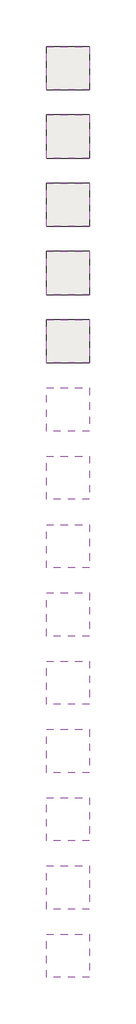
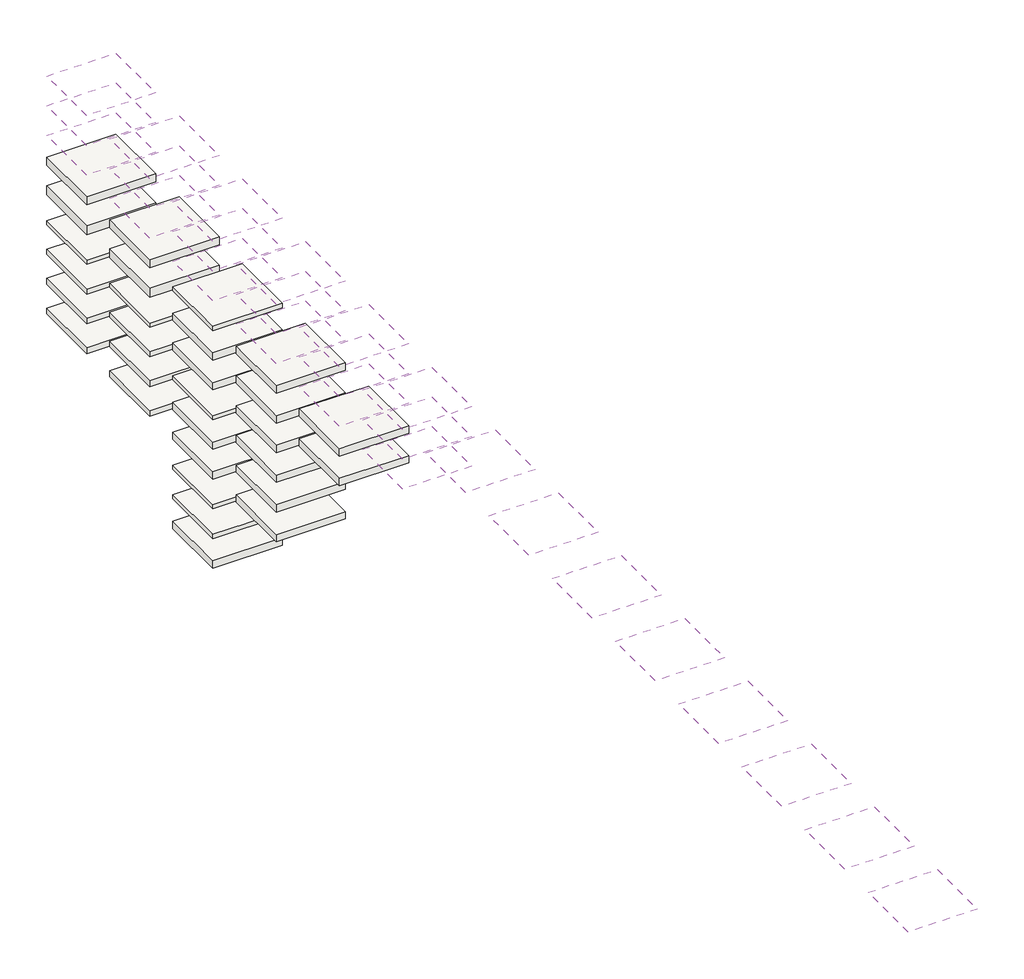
# One storey: 55 coverings.
"""IFC4 building model written with IfcOpenShell, lengths in millimetres."""

from ifc_helpers import new_model, si_unit, frame, origin, place, context, project, spatial, polyline, outline, extrude, element, save

model = new_model("IFC4")

# Units and contexts
model_context = context("Model", 3, world=origin())
ifc_project = project(units=[si_unit("LENGTHUNIT", "METRE", prefix="MILLI")], contexts=[model_context])

# Site, building, storey
site = spatial("IfcSite", under=ifc_project)
building = spatial("IfcBuilding", under=site)
storey = spatial("IfcBuildingStorey", under=building, Name="6_piekarāmie_griesti", Elevation=20000.0)

# Coverings
placement = place(None, origin())
element("IfcCovering", 1, ObjectType="RIGIPS - 4.05.71 (100)", at=placement, inside=storey, context=model_context, shape_type="SweptSolid", body=[
    extrude(outline(polyline([(16000.0, 10606.25), (16000.0, 9606.25), (15000.0, 9606.25), (15000.0, 10606.25), (16000.0, 10606.25)])), frame((0.0, 0.0, 22011.3687639), z_axis=(0.0, 0.0, 1.0), x_axis=(1.0, 0.0, 0.0)), (0.0, 0.0, 1.0), 100.0),
])
element("IfcCovering", 2, ObjectType="RIGIPS - 4.05.71 (113-1)", at=placement, inside=storey, context=model_context, shape_type="SweptSolid", body=[
    extrude(outline(polyline([(16000.0, 10606.25), (16000.0, 9606.25), (15000.0, 9606.25), (15000.0, 10606.25), (16000.0, 10606.25)])), frame((0.0, 0.0, 21557.8660542), z_axis=(0.0, 0.0, 1.0), x_axis=(1.0, 0.0, 0.0)), (0.0, 0.0, 1.0), 112.5),
])
element("IfcCovering", 3, ObjectType="RIGIPS - 4.05.71 (113-2)", at=placement, inside=storey, context=model_context, shape_type="SweptSolid", body=[
    extrude(outline(polyline([(16000.0, 10606.25), (16000.0, 9606.25), (15000.0, 9606.25), (15000.0, 10606.25), (16000.0, 10606.25)])), frame((0.0, 0.0, 21104.3633445), z_axis=(0.0, 0.0, 1.0), x_axis=(1.0, 0.0, 0.0)), (0.0, 0.0, 1.0), 112.5),
])
element("IfcCovering", 4, ObjectType="RIGIPS - 4.05.71 (125)", at=placement, inside=storey, context=model_context, shape_type="SweptSolid", body=[
    extrude(outline(polyline([(16000.0, 10606.25), (16000.0, 9606.25), (15000.0, 9606.25), (15000.0, 10606.25), (16000.0, 10606.25)])), frame((0.0, 0.0, 20650.8606349), z_axis=(0.0, 0.0, 1.0), x_axis=(1.0, 0.0, 0.0)), (0.0, 0.0, 1.0), 125.0),
])
element("IfcCovering", 5, ObjectType="RIGIPS - 4.05.71 (138)", at=placement, inside=storey, context=model_context, shape_type="SweptSolid", body=[
    extrude(outline(polyline([(16000.0, 10606.25), (16000.0, 9606.25), (15000.0, 9606.25), (15000.0, 10606.25), (16000.0, 10606.25)])), frame((0.0, 0.0, 20197.3579252), z_axis=(0.0, 0.0, 1.0), x_axis=(1.0, 0.0, 0.0)), (0.0, 0.0, 1.0), 137.5),
])
element("IfcCovering", 6, ObjectType="RIGIPS - 4.05.71 (63)", at=placement, inside=storey, context=model_context, shape_type="SweptSolid", body=[
    extrude(outline(polyline([(16000.0, 10606.25), (16000.0, 9606.25), (15000.0, 9606.25), (15000.0, 10606.25), (16000.0, 10606.25)])), frame((0.0, 0.0, 19743.8552155), z_axis=(0.0, 0.0, 1.0), x_axis=(1.0, 0.0, 0.0)), (0.0, 0.0, 1.0), 62.5),
])
element("IfcCovering", 7, ObjectType="RIGIPS - 4.05.71 (75)", at=placement, inside=storey, context=model_context, shape_type="SweptSolid", body=[
    extrude(outline(polyline([(16000.0, 10606.25), (16000.0, 9606.25), (15000.0, 9606.25), (15000.0, 10606.25), (16000.0, 10606.25)])), frame((0.0, 0.0, 19290.3525058), z_axis=(0.0, 0.0, 1.0), x_axis=(1.0, 0.0, 0.0)), (0.0, 0.0, 1.0), 75.0),
])
element("IfcCovering", 8, ObjectType="RIGIPS - 4.05.71 (88-1)", at=placement, inside=storey, context=model_context, shape_type="SweptSolid", body=[
    extrude(outline(polyline([(16000.0, 10606.25), (16000.0, 9606.25), (15000.0, 9606.25), (15000.0, 10606.25), (16000.0, 10606.25)])), frame((0.0, 0.0, 18836.8497962), z_axis=(0.0, 0.0, 1.0), x_axis=(1.0, 0.0, 0.0)), (0.0, 0.0, 1.0), 87.5),
])
element("IfcCovering", 9, ObjectType="RIGIPS - 4.05.71 (88-2)", at=placement, inside=storey, context=model_context, shape_type="SweptSolid", body=[
    extrude(outline(polyline([(16000.0, 10606.25), (16000.0, 9606.25), (15000.0, 9606.25), (15000.0, 10606.25), (16000.0, 10606.25)])), frame((0.0, 0.0, 18383.3470865), z_axis=(0.0, 0.0, 1.0), x_axis=(1.0, 0.0, 0.0)), (0.0, 0.0, 1.0), 87.5),
])
element("IfcCovering", 10, ObjectType="RIGIPS - 4.05.72 (100)", at=placement, inside=storey, context=model_context, shape_type="SweptSolid", body=[
    extrude(outline(polyline([(16000.0, 9026.25), (16000.0, 8026.25), (15000.0, 8026.25), (15000.0, 9026.25), (16000.0, 9026.25)])), frame((0.0, 0.0, 22011.3687639), z_axis=(0.0, 0.0, 1.0), x_axis=(1.0, 0.0, 0.0)), (0.0, 0.0, 1.0), 100.0),
])
element("IfcCovering", 11, ObjectType="RIGIPS - 4.05.72 (113-1)", at=placement, inside=storey, context=model_context, shape_type="SweptSolid", body=[
    extrude(outline(polyline([(16000.0, 9026.25), (16000.0, 8026.25), (15000.0, 8026.25), (15000.0, 9026.25), (16000.0, 9026.25)])), frame((0.0, 0.0, 21557.8660542), z_axis=(0.0, 0.0, 1.0), x_axis=(1.0, 0.0, 0.0)), (0.0, 0.0, 1.0), 112.5),
])
element("IfcCovering", 12, ObjectType="RIGIPS - 4.05.72 (113-2)", at=placement, inside=storey, context=model_context, shape_type="SweptSolid", body=[
    extrude(outline(polyline([(16000.0, 9026.25), (16000.0, 8026.25), (15000.0, 8026.25), (15000.0, 9026.25), (16000.0, 9026.25)])), frame((0.0, 0.0, 21104.3633445), z_axis=(0.0, 0.0, 1.0), x_axis=(1.0, 0.0, 0.0)), (0.0, 0.0, 1.0), 112.5),
])
element("IfcCovering", 13, ObjectType="RIGIPS - 4.05.72 (125)", at=placement, inside=storey, context=model_context, shape_type="SweptSolid", body=[
    extrude(outline(polyline([(16000.0, 9026.25), (16000.0, 8026.25), (15000.0, 8026.25), (15000.0, 9026.25), (16000.0, 9026.25)])), frame((0.0, 0.0, 20650.8606349), z_axis=(0.0, 0.0, 1.0), x_axis=(1.0, 0.0, 0.0)), (0.0, 0.0, 1.0), 125.0),
])
element("IfcCovering", 14, ObjectType="RIGIPS - 4.05.72 (138)", at=placement, inside=storey, context=model_context, shape_type="SweptSolid", body=[
    extrude(outline(polyline([(16000.0, 9026.25), (16000.0, 8026.25), (15000.0, 8026.25), (15000.0, 9026.25), (16000.0, 9026.25)])), frame((0.0, 0.0, 20197.3579252), z_axis=(0.0, 0.0, 1.0), x_axis=(1.0, 0.0, 0.0)), (0.0, 0.0, 1.0), 137.5),
])
element("IfcCovering", 15, ObjectType="RIGIPS - 4.05.72 (63)", at=placement, inside=storey, context=model_context, shape_type="SweptSolid", body=[
    extrude(outline(polyline([(16000.0, 9026.25), (16000.0, 8026.25), (15000.0, 8026.25), (15000.0, 9026.25), (16000.0, 9026.25)])), frame((0.0, 0.0, 19743.8552155), z_axis=(0.0, 0.0, 1.0), x_axis=(1.0, 0.0, 0.0)), (0.0, 0.0, 1.0), 62.5),
])
element("IfcCovering", 16, ObjectType="RIGIPS - 4.05.72 (75)", at=placement, inside=storey, context=model_context, shape_type="SweptSolid", body=[
    extrude(outline(polyline([(16000.0, 9026.25), (16000.0, 8026.25), (15000.0, 8026.25), (15000.0, 9026.25), (16000.0, 9026.25)])), frame((0.0, 0.0, 19290.3525058), z_axis=(0.0, 0.0, 1.0), x_axis=(1.0, 0.0, 0.0)), (0.0, 0.0, 1.0), 75.0),
])
element("IfcCovering", 17, ObjectType="RIGIPS - 4.05.72 (88-1)", at=placement, inside=storey, context=model_context, shape_type="SweptSolid", body=[
    extrude(outline(polyline([(16000.0, 9026.25), (16000.0, 8026.25), (15000.0, 8026.25), (15000.0, 9026.25), (16000.0, 9026.25)])), frame((0.0, 0.0, 18836.8497962), z_axis=(0.0, 0.0, 1.0), x_axis=(1.0, 0.0, 0.0)), (0.0, 0.0, 1.0), 87.5),
])
element("IfcCovering", 18, ObjectType="RIGIPS - 4.05.72 (88-2)", at=placement, inside=storey, context=model_context, shape_type="SweptSolid", body=[
    extrude(outline(polyline([(16000.0, 9026.25), (16000.0, 8026.25), (15000.0, 8026.25), (15000.0, 9026.25), (16000.0, 9026.25)])), frame((0.0, 0.0, 18383.3470865), z_axis=(0.0, 0.0, 1.0), x_axis=(1.0, 0.0, 0.0)), (0.0, 0.0, 1.0), 87.5),
])
element("IfcCovering", 19, ObjectType="RIGIPS - 4.07.20 - LINE 6", at=placement, inside=storey, context=model_context, shape_type="SweptSolid", body=[
    extrude(outline(polyline([(16000.0, 7446.25), (16000.0, 6446.25), (15000.0, 6446.25), (15000.0, 7446.25), (16000.0, 7446.25)])), frame((0.0, 0.0, 22011.3687639), z_axis=(0.0, 0.0, 1.0), x_axis=(1.0, 0.0, 0.0)), (0.0, 0.0, 1.0), 112.5),
])
element("IfcCovering", 20, ObjectType="RIGIPS - 4.07.20 - QUATTRO 40", at=placement, inside=storey, context=model_context, shape_type="SweptSolid", body=[
    extrude(outline(polyline([(16000.0, 7446.25), (16000.0, 6446.25), (15000.0, 6446.25), (15000.0, 7446.25), (16000.0, 7446.25)])), frame((0.0, 0.0, 21557.8660542), z_axis=(0.0, 0.0, 1.0), x_axis=(1.0, 0.0, 0.0)), (0.0, 0.0, 1.0), 62.5),
])
element("IfcCovering", 21, ObjectType="RIGIPS - 4.07.20 - QUATTRO 41-1", at=placement, inside=storey, context=model_context, shape_type="SweptSolid", body=[
    extrude(outline(polyline([(16000.0, 7446.25), (16000.0, 6446.25), (15000.0, 6446.25), (15000.0, 7446.25), (16000.0, 7446.25)])), frame((0.0, 0.0, 21104.3633445), z_axis=(0.0, 0.0, 1.0), x_axis=(1.0, 0.0, 0.0)), (0.0, 0.0, 1.0), 62.5),
])
element("IfcCovering", 22, ObjectType="RIGIPS - 4.07.20 - QUATTRO 41-2", at=placement, inside=storey, context=model_context, shape_type="SweptSolid", body=[
    extrude(outline(polyline([(16000.0, 7446.25), (16000.0, 6446.25), (15000.0, 6446.25), (15000.0, 7446.25), (16000.0, 7446.25)])), frame((0.0, 0.0, 20650.8606349), z_axis=(0.0, 0.0, 1.0), x_axis=(1.0, 0.0, 0.0)), (0.0, 0.0, 1.0), 62.5),
])
element("IfcCovering", 23, ObjectType="RIGIPS - 4.07.20 - QUATTRO 41", at=placement, inside=storey, context=model_context, shape_type="SweptSolid", body=[
    extrude(outline(polyline([(16000.0, 7446.25), (16000.0, 6446.25), (15000.0, 6446.25), (15000.0, 7446.25), (16000.0, 7446.25)])), frame((0.0, 0.0, 20197.3579252), z_axis=(0.0, 0.0, 1.0), x_axis=(1.0, 0.0, 0.0)), (0.0, 0.0, 1.0), 112.5),
])
element("IfcCovering", 24, ObjectType="RIGIPS - 4.07.20 - QUATTRO 42", at=placement, inside=storey, context=model_context, shape_type="SweptSolid", body=[
    extrude(outline(polyline([(16000.0, 7446.25), (16000.0, 6446.25), (15000.0, 6446.25), (15000.0, 7446.25), (16000.0, 7446.25)])), frame((0.0, 0.0, 19743.8552155), z_axis=(0.0, 0.0, 1.0), x_axis=(1.0, 0.0, 0.0)), (0.0, 0.0, 1.0), 112.5),
])
element("IfcCovering", 25, ObjectType="RIGIPS - 4.07.20 - QUATTRO 44", at=placement, inside=storey, context=model_context, shape_type="SweptSolid", body=[
    extrude(outline(polyline([(16000.0, 7446.25), (16000.0, 6446.25), (15000.0, 6446.25), (15000.0, 7446.25), (16000.0, 7446.25)])), frame((0.0, 0.0, 19290.3525058), z_axis=(0.0, 0.0, 1.0), x_axis=(1.0, 0.0, 0.0)), (0.0, 0.0, 1.0), 62.5),
])
element("IfcCovering", 26, ObjectType="RIGIPS - 4.07.20 - QUATTRO 46", at=placement, inside=storey, context=model_context, shape_type="SweptSolid", body=[
    extrude(outline(polyline([(16000.0, 7446.25), (16000.0, 6446.25), (15000.0, 6446.25), (15000.0, 7446.25), (16000.0, 7446.25)])), frame((0.0, 0.0, 18836.8497962), z_axis=(0.0, 0.0, 1.0), x_axis=(1.0, 0.0, 0.0)), (0.0, 0.0, 1.0), 112.5),
])
element("IfcCovering", 27, ObjectType="RIGIPS - 4.07.20 - QUATTRO 47", at=placement, inside=storey, context=model_context, shape_type="SweptSolid", body=[
    extrude(outline(polyline([(16000.0, 7446.25), (16000.0, 6446.25), (15000.0, 6446.25), (15000.0, 7446.25), (16000.0, 7446.25)])), frame((0.0, 0.0, 18383.3470865), z_axis=(0.0, 0.0, 1.0), x_axis=(1.0, 0.0, 0.0)), (0.0, 0.0, 1.0), 112.5),
])
element("IfcCovering", 28, ObjectType="RIGIPS - 4.07.20 - QUATTRO 71", at=placement, inside=storey, context=model_context, shape_type="SweptSolid", body=[
    extrude(outline(polyline([(16000.0, 7446.25), (16000.0, 6446.25), (15000.0, 6446.25), (15000.0, 7446.25), (16000.0, 7446.25)])), frame((0.0, 0.0, 17929.8443768), z_axis=(0.0, 0.0, 1.0), x_axis=(1.0, 0.0, 0.0)), (0.0, 0.0, 1.0), 62.5),
])
element("IfcCovering", 29, ObjectType="RIGIPS - 4.07.20 - SIXTO 63", at=placement, inside=storey, context=model_context, shape_type="SweptSolid", body=[
    extrude(outline(polyline([(16000.0, 7446.25), (16000.0, 6446.25), (15000.0, 6446.25), (15000.0, 7446.25), (16000.0, 7446.25)])), frame((0.0, 0.0, 17476.3416671), z_axis=(0.0, 0.0, 1.0), x_axis=(1.0, 0.0, 0.0)), (0.0, 0.0, 1.0), 62.5),
])
element("IfcCovering", 30, ObjectType="RIGIPS - 4.07.21 - RL 10_23", at=placement, inside=storey, context=model_context, shape_type="SweptSolid", body=[
    extrude(outline(polyline([(16000.0, 7446.25), (16000.0, 6446.25), (15000.0, 6446.25), (15000.0, 7446.25), (16000.0, 7446.25)])), frame((0.0, 0.0, 17022.8389575), z_axis=(0.0, 0.0, 1.0), x_axis=(1.0, 0.0, 0.0)), (0.0, 0.0, 1.0), 112.5),
])
element("IfcCovering", 31, ObjectType="RIGIPS - 4.07.21 - RL 12-20_66", at=placement, inside=storey, context=model_context, shape_type="SweptSolid", body=[
    extrude(outline(polyline([(16000.0, 5866.25), (16000.0, 4866.25), (15000.0, 4866.25), (15000.0, 5866.25), (16000.0, 5866.25)])), frame((0.0, 0.0, 22011.3687639), z_axis=(0.0, 0.0, 1.0), x_axis=(1.0, 0.0, 0.0)), (0.0, 0.0, 1.0), 112.5),
])
element("IfcCovering", 32, ObjectType="RIGIPS - 4.07.21 - RL 12_25", at=placement, inside=storey, context=model_context, shape_type="SweptSolid", body=[
    extrude(outline(polyline([(16000.0, 5866.25), (16000.0, 4866.25), (15000.0, 4866.25), (15000.0, 5866.25), (16000.0, 5866.25)])), frame((0.0, 0.0, 21557.8660542), z_axis=(0.0, 0.0, 1.0), x_axis=(1.0, 0.0, 0.0)), (0.0, 0.0, 1.0), 112.5),
])
element("IfcCovering", 33, ObjectType="RIGIPS - 4.07.21 - RL 12_25q", at=placement, inside=storey, context=model_context, shape_type="SweptSolid", body=[
    extrude(outline(polyline([(16000.0, 5866.25), (16000.0, 4866.25), (15000.0, 4866.25), (15000.0, 5866.25), (16000.0, 5866.25)])), frame((0.0, 0.0, 21104.3633445), z_axis=(0.0, 0.0, 1.0), x_axis=(1.0, 0.0, 0.0)), (0.0, 0.0, 1.0), 112.5),
])
element("IfcCovering", 34, ObjectType="RIGIPS - 4.07.21 - RL 15_30", at=placement, inside=storey, context=model_context, shape_type="SweptSolid", body=[
    extrude(outline(polyline([(16000.0, 5866.25), (16000.0, 4866.25), (15000.0, 4866.25), (15000.0, 5866.25), (16000.0, 5866.25)])), frame((0.0, 0.0, 20650.8606349), z_axis=(0.0, 0.0, 1.0), x_axis=(1.0, 0.0, 0.0)), (0.0, 0.0, 1.0), 112.5),
])
element("IfcCovering", 35, ObjectType="RIGIPS - 4.07.21 - RL 6_18", at=placement, inside=storey, context=model_context, shape_type="SweptSolid", body=[
    extrude(outline(polyline([(16000.0, 5866.25), (16000.0, 4866.25), (15000.0, 4866.25), (15000.0, 5866.25), (16000.0, 5866.25)])), frame((0.0, 0.0, 20197.3579252), z_axis=(0.0, 0.0, 1.0), x_axis=(1.0, 0.0, 0.0)), (0.0, 0.0, 1.0), 112.5),
])
element("IfcCovering", 36, ObjectType="RIGIPS - 4.07.21 - RL 8_15_20", at=placement, inside=storey, context=model_context, shape_type="SweptSolid", body=[
    extrude(outline(polyline([(16000.0, 5866.25), (16000.0, 4866.25), (15000.0, 4866.25), (15000.0, 5866.25), (16000.0, 5866.25)])), frame((0.0, 0.0, 19743.8552155), z_axis=(0.0, 0.0, 1.0), x_axis=(1.0, 0.0, 0.0)), (0.0, 0.0, 1.0), 112.5),
])
element("IfcCovering", 37, ObjectType="RIGIPS - 4.07.21 - RL 8_18", at=placement, inside=storey, context=model_context, shape_type="SweptSolid", body=[
    extrude(outline(polyline([(16000.0, 5866.25), (16000.0, 4866.25), (15000.0, 4866.25), (15000.0, 5866.25), (16000.0, 5866.25)])), frame((0.0, 0.0, 19290.3525058), z_axis=(0.0, 0.0, 1.0), x_axis=(1.0, 0.0, 0.0)), (0.0, 0.0, 1.0), 112.5),
])
element("IfcCovering", 38, ObjectType="RIGIPS - 4.07.21 - RL 8_18q", at=placement, inside=storey, context=model_context, shape_type="SweptSolid", body=[
    extrude(outline(polyline([(16000.0, 5866.25), (16000.0, 4866.25), (15000.0, 4866.25), (15000.0, 5866.25), (16000.0, 5866.25)])), frame((0.0, 0.0, 18836.8497962), z_axis=(0.0, 0.0, 1.0), x_axis=(1.0, 0.0, 0.0)), (0.0, 0.0, 1.0), 112.5),
])
element("IfcCovering", 39, ObjectType="RIGIPS - 4.07.21 - RL Super 8_15_20", at=placement, inside=storey, context=model_context, shape_type="SweptSolid", body=[
    extrude(outline(polyline([(16000.0, 5866.25), (16000.0, 4866.25), (15000.0, 4866.25), (15000.0, 5866.25), (16000.0, 5866.25)])), frame((0.0, 0.0, 18383.3470865), z_axis=(0.0, 0.0, 1.0), x_axis=(1.0, 0.0, 0.0)), (0.0, 0.0, 1.0), 112.5),
])
element("IfcCovering", 40, ObjectType="RIGIPS - 4.07.54 - PLANK BASE 33", at=placement, inside=storey, context=model_context, shape_type="SweptSolid", body=[
    extrude(outline(polyline([(16000.0, 4286.25), (16000.0, 3286.25), (15000.0, 3286.25), (15000.0, 4286.25), (16000.0, 4286.25)])), frame((0.0, 0.0, 22011.3687639), z_axis=(0.0, 0.0, 1.0), x_axis=(1.0, 0.0, 0.0)), (0.0, 0.0, 1.0), 112.5),
])
element("IfcCovering", 41, ObjectType="RIGIPS - 4.07.54 - PLANK LINE 8", at=placement, inside=storey, context=model_context, shape_type="SweptSolid", body=[
    extrude(outline(polyline([(16000.0, 4286.25), (16000.0, 3286.25), (15000.0, 3286.25), (15000.0, 4286.25), (16000.0, 4286.25)])), frame((0.0, 0.0, 21557.8660542), z_axis=(0.0, 0.0, 1.0), x_axis=(1.0, 0.0, 0.0)), (0.0, 0.0, 1.0), 112.5),
])
element("IfcCovering", 42, ObjectType="RIGIPS - 4.07.54 - PLANK POINT 15", at=placement, inside=storey, context=model_context, shape_type="SweptSolid", body=[
    extrude(outline(polyline([(16000.0, 4286.25), (16000.0, 3286.25), (15000.0, 3286.25), (15000.0, 4286.25), (16000.0, 4286.25)])), frame((0.0, 0.0, 21104.3633445), z_axis=(0.0, 0.0, 1.0), x_axis=(1.0, 0.0, 0.0)), (0.0, 0.0, 1.0), 112.5),
])
element("IfcCovering", 43, ObjectType="RIGIPS - 4.07.54 - PLANK QUATTRO 55", at=placement, inside=storey, context=model_context, shape_type="SweptSolid", body=[
    extrude(outline(polyline([(16000.0, 4286.25), (16000.0, 3286.25), (15000.0, 3286.25), (15000.0, 4286.25), (16000.0, 4286.25)])), frame((0.0, 0.0, 20650.8606349), z_axis=(0.0, 0.0, 1.0), x_axis=(1.0, 0.0, 0.0)), (0.0, 0.0, 1.0), 112.5),
])
element("IfcCovering", 44, ObjectType="RIGIPS - 4.07.54 - PLANK QUATTRO 75", at=placement, inside=storey, context=model_context, shape_type="SweptSolid", body=[
    extrude(outline(polyline([(16000.0, 4286.25), (16000.0, 3286.25), (15000.0, 3286.25), (15000.0, 4286.25), (16000.0, 4286.25)])), frame((0.0, 0.0, 20197.3579252), z_axis=(0.0, 0.0, 1.0), x_axis=(1.0, 0.0, 0.0)), (0.0, 0.0, 1.0), 112.5),
])
element("IfcCovering", 45, ObjectType="RIGIPS - 4.07.70 - CASOBIANCA - REI 90", at=placement, inside=storey, context=model_context, shape_type="SweptSolid", body=[
    extrude(outline(polyline([(16000.0, 2706.25), (16000.0, 1706.25), (15000.0, 1706.25), (15000.0, 2706.25), (16000.0, 2706.25)])), frame((0.0, 0.0, 22011.3687639), z_axis=(0.0, 0.0, 1.0), x_axis=(1.0, 0.0, 0.0)), (0.0, 0.0, 1.0), 58.0),
])
element("IfcCovering", 46, ObjectType="RIGIPS - 4.07.70 - CASOROC- REI 90", at=placement, inside=storey, context=model_context, shape_type="SweptSolid", body=[
    extrude(outline(polyline([(16000.0, 2706.25), (16000.0, 1706.25), (15000.0, 1706.25), (15000.0, 2706.25), (16000.0, 2706.25)])), frame((0.0, 0.0, 21557.8660542), z_axis=(0.0, 0.0, 1.0), x_axis=(1.0, 0.0, 0.0)), (0.0, 0.0, 1.0), 58.0),
])
element("IfcCovering", 47, ObjectType="RIGIPS - 4.07.70 - CASOSTAR - REI 90", at=placement, inside=storey, context=model_context, shape_type="SweptSolid", body=[
    extrude(outline(polyline([(16000.0, 2706.25), (16000.0, 1706.25), (15000.0, 1706.25), (15000.0, 2706.25), (16000.0, 2706.25)])), frame((0.0, 0.0, 21104.3633445), z_axis=(0.0, 0.0, 1.0), x_axis=(1.0, 0.0, 0.0)), (0.0, 0.0, 1.0), 58.0),
])
element("IfcCovering", 48, ObjectType="RIGIPS - 4.10.13 - EI 15, REI 15 - 27dB", at=placement, inside=storey, context=model_context, shape_type="SweptSolid", body=[
    extrude(outline(polyline([(16000.0, 1126.25), (16000.0, 126.25), (15000.0, 126.25), (15000.0, 1126.25), (16000.0, 1126.25)])), frame((0.0, 0.0, 22011.3687639), z_axis=(0.0, 0.0, 1.0), x_axis=(1.0, 0.0, 0.0)), (0.0, 0.0, 1.0), 72.5),
])
element("IfcCovering", 49, ObjectType="RIGIPS - 4.10.14 - EI 15, REI 15 - 27dB", at=placement, inside=storey, context=model_context, shape_type="SweptSolid", body=[
    extrude(outline(polyline([(16000.0, -453.75), (16000.0, -1453.75), (15000.0, -1453.75), (15000.0, -453.75), (16000.0, -453.75)])), frame((0.0, 0.0, 22011.3687639), z_axis=(0.0, 0.0, 1.0), x_axis=(1.0, 0.0, 0.0)), (0.0, 0.0, 1.0), 42.5),
])
element("IfcCovering", 50, ObjectType="RIGIPS - 4.10.15 - EI 30, REI 30 - 30dB", at=placement, inside=storey, context=model_context, shape_type="SweptSolid", body=[
    extrude(outline(polyline([(16000.0, -2033.75), (16000.0, -3033.75), (15000.0, -3033.75), (15000.0, -2033.75), (16000.0, -2033.75)])), frame((0.0, 0.0, 22011.3687639), z_axis=(0.0, 0.0, 1.0), x_axis=(1.0, 0.0, 0.0)), (0.0, 0.0, 1.0), 85.0),
])
element("IfcCovering", 51, ObjectType="RIGIPS - 4.10.16 - EI 30, REI 30 - 30dB", at=placement, inside=storey, context=model_context, shape_type="SweptSolid", body=[
    extrude(outline(polyline([(16000.0, -3613.75), (16000.0, -4613.75), (15000.0, -4613.75), (15000.0, -3613.75), (16000.0, -3613.75)])), frame((0.0, 0.0, 22011.3687639), z_axis=(0.0, 0.0, 1.0), x_axis=(1.0, 0.0, 0.0)), (0.0, 0.0, 1.0), 55.0),
])
element("IfcCovering", 52, ObjectType="RIGIPS - 4.10.17 - EI 60, REI 60 - 30dB", at=placement, inside=storey, context=model_context, shape_type="SweptSolid", body=[
    extrude(outline(polyline([(16000.0, -5193.75), (16000.0, -6193.75), (15000.0, -6193.75), (15000.0, -5193.75), (16000.0, -5193.75)])), frame((0.0, 0.0, 22011.3687639), z_axis=(0.0, 0.0, 1.0), x_axis=(1.0, 0.0, 0.0)), (0.0, 0.0, 1.0), 90.0),
])
element("IfcCovering", 53, ObjectType="RIGIPS - 4.10.18 - EI 60, REI 60 - 30dB", at=placement, inside=storey, context=model_context, shape_type="SweptSolid", body=[
    extrude(outline(polyline([(16000.0, -6773.75), (16000.0, -7773.75), (15000.0, -7773.75), (15000.0, -6773.75), (16000.0, -6773.75)])), frame((0.0, 0.0, 22011.3687639), z_axis=(0.0, 0.0, 1.0), x_axis=(1.0, 0.0, 0.0)), (0.0, 0.0, 1.0), 60.0),
])
element("IfcCovering", 54, ObjectType="RIGIPS - 4.10.29 - EI 120, REI 120 - 30dB", at=placement, inside=storey, context=model_context, shape_type="SweptSolid", body=[
    extrude(outline(polyline([(16000.0, -8353.75), (16000.0, -9353.75), (15000.0, -9353.75), (15000.0, -8353.75), (16000.0, -8353.75)])), frame((0.0, 0.0, 22011.3687639), z_axis=(0.0, 0.0, 1.0), x_axis=(1.0, 0.0, 0.0)), (0.0, 0.0, 1.0), 110.0),
])
element("IfcCovering", 55, ObjectType="RIGIPS - 4.10.30 - EI 120, REI 120 - 30dB", at=placement, inside=storey, context=model_context, shape_type="SweptSolid", body=[
    extrude(outline(polyline([(16000.0, -9933.75), (16000.0, -10933.75), (15000.0, -10933.75), (15000.0, -9933.75), (16000.0, -9933.75)])), frame((0.0, 0.0, 22011.3687639), z_axis=(0.0, 0.0, 1.0), x_axis=(1.0, 0.0, 0.0)), (0.0, 0.0, 1.0), 80.0),
])

save(model, "model.ifc")
